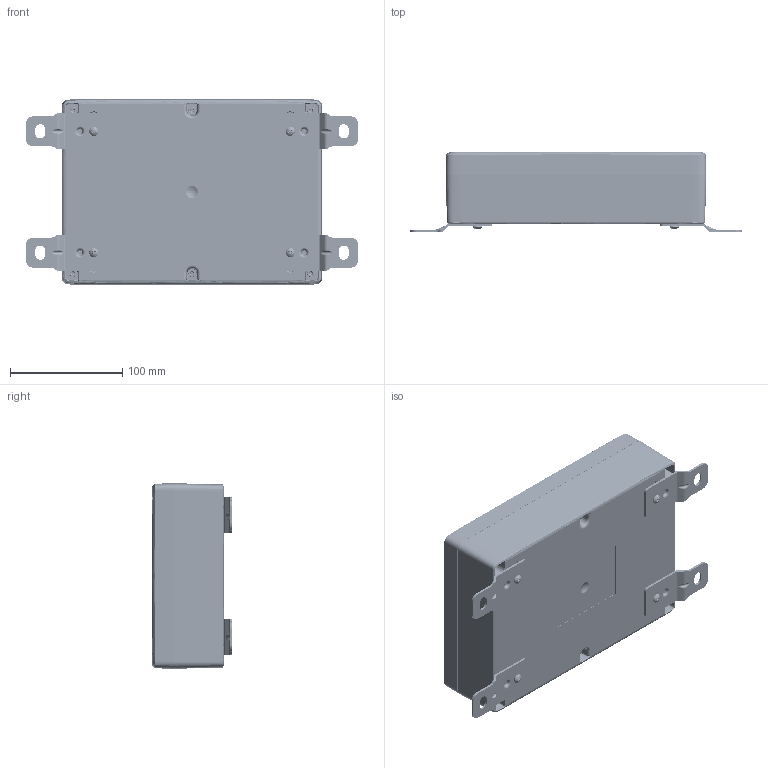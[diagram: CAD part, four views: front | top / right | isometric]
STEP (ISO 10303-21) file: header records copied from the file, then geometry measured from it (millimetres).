
FILE_DESCRIPTION (( 'STEP AP214' ), '1' );
FILE_NAME ('HN-67-21.STEP', '2026-09-24T18:05:21', ( '' ), ( '' ), 'SwSTEP 2.0', 'SolidWorks 2026', '' );
FILE_SCHEMA (( 'AUTOMOTIVE_DESIGN' ));
Length unit declared in the file: inch
Products named in the file (11): HN-69G_default; HN-67-21; HN-69CG_HN-69CG-01; HN-69C_HN-69C-01; SCREWS-xxx_#8-16 PLASTITE, PAN, PHILLIPS_SCREWS-044; SCREWS-054_DEFAULT; LABEL-107; ZH-91F_ZH-91F-01; HN-67B_HN-67BP-01; HN-67BN_HN-67BPN-01; INSERTS-3_INSERTS-3
Assembly tree (26 placements, depth 3):
  HN-67-21
    HN-67B_HN-67BP-01
      HN-67BN_HN-67BPN-01
      INSERTS-3_INSERTS-3  x6
      LABEL-107
    HN-69CG_HN-69CG-01
      HN-69C_HN-69C-01
      HN-69G_default
    SCREWS-054_DEFAULT  x6
    ZH-91F_ZH-91F-01  x4
    SCREWS-xxx_#8-16 PLASTITE, PAN, PHILLIPS_SCREWS-044  x4
Bounding box: 295.27 x 70.94 x 165.1 mm (x, y, z)
Volume: 475816.1 mm3; surface area: 309135.4 mm2
Topology: 24 solids, 24 shells, 5398 faces, 13044 edges, 7717 vertices
Faces by surface type: torus 1192, cone 1128, bspline 1026, plane 1022, cylinder 946, sphere 84
Full cylindrical faces by diameter (mm): 2.413 x6, 2.705 x6, 4.318 x6, 4.445 x24, 4.699 x12, 5.105 x4, 5.283 x12, 6.274 x6, 6.858 x6, 8.179 x4
Entity records: 167128 total; most frequent: CARTESIAN_POINT 74618, ORIENTED_EDGE 20528, DIRECTION 16919, EDGE_CURVE 10264, AXIS2_PLACEMENT_3D 7359, VERTEX_POINT 6212, EDGE_LOOP 4622, FACE_OUTER_BOUND 4410
